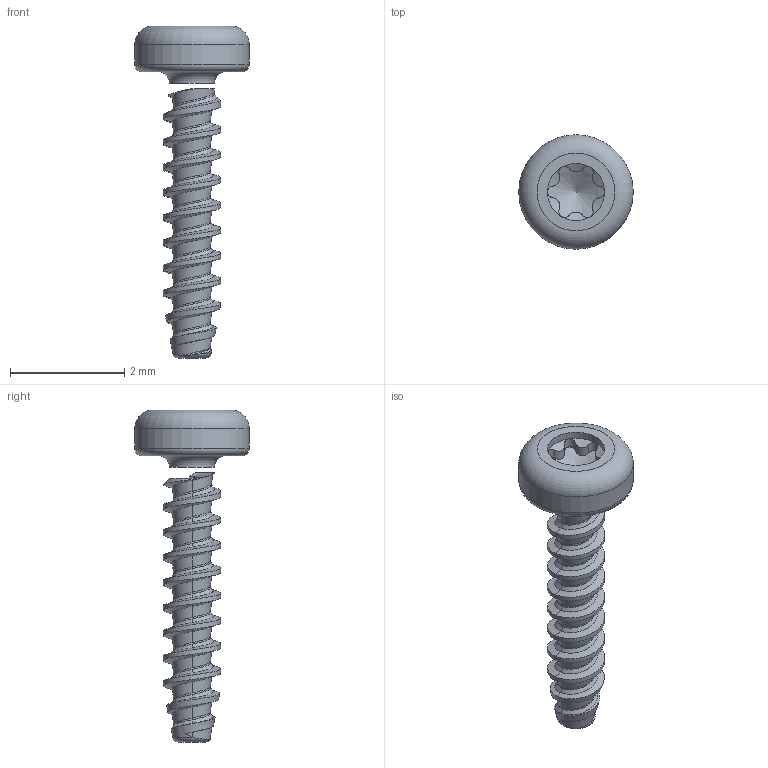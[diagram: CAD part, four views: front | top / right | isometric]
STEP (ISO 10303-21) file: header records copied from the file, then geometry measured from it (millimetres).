
FILE_DESCRIPTION(/* description */ (''),/* implementation_level */ '2;1');
FILE_NAME(/* name */ 'KN6039-STSplus-10x5-T2.step',/* time_stamp */ '2017-10-11T10:34:23+02:00',/* author */ (''),/* organization */ (''),/* preprocessor_version */ 'ST-DEVELOPER v16',/* originating_system */ 'SIEMENS PLM Software NX 10.0',/* authorisation */ '');
FILE_SCHEMA (('AUTOMOTIVE_DESIGN { 1 0 10303 214 3 1 1 1 }'));
Length unit declared in the file: millimetre
Products named in the file (1): KN6039-STSplus-10x5-T2
Bounding box: 2 x 2 x 5.8 mm (x, y, z)
Volume: 4.4 mm3; surface area: 28 mm2
Topology: 1 solids, 1 shells, 82 faces, 207 edges, 126 vertices
Faces by surface type: bspline 47, cylinder 18, cone 9, torus 4, plane 4
Full cylindrical faces by diameter (mm): 0.79 x2, 1 x1, 2 x1
Entity records: 5618 total; most frequent: CARTESIAN_POINT 4088, ORIENTED_EDGE 382, EDGE_CURVE 191, DIRECTION 163, VERTEX_POINT 122, B_SPLINE_CURVE_WITH_KNOTS 117, EDGE_LOOP 90, ADVANCED_FACE 81
